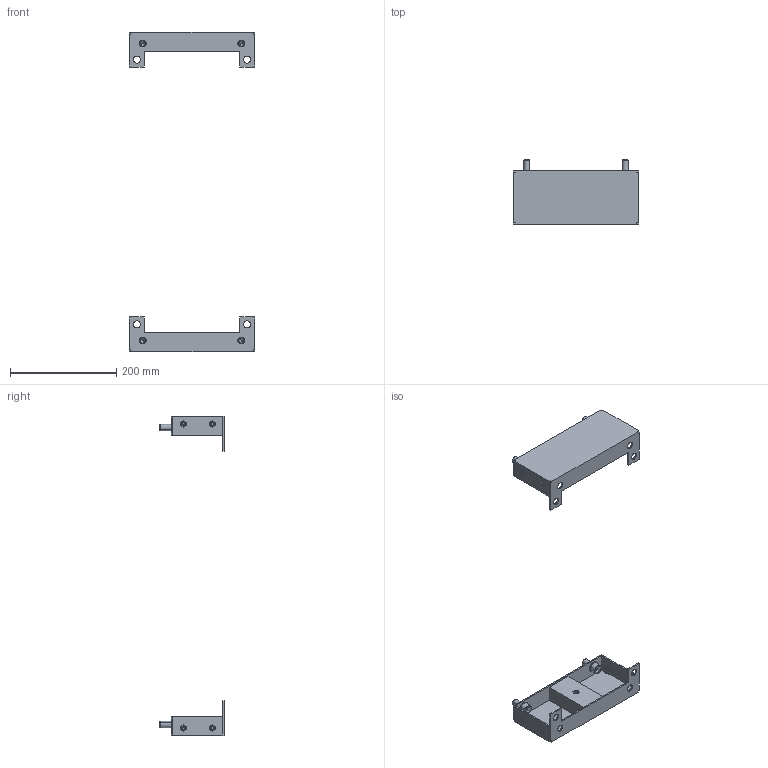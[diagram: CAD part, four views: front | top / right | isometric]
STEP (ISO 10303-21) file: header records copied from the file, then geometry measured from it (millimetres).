
FILE_DESCRIPTION (( 'STEP AP203' ), '1' );
FILE_NAME ('R6PLB30 H=600.STEP', '2025-05-16T11:39:22', ( '' ), ( '' ), 'SwSTEP 2.0', 'SolidWorks 2022', '' );
FILE_SCHEMA (( 'CONFIG_CONTROL_DESIGN' ));
Length unit declared in the file: millimetre
Products named in the file (8): RB.3309.00.01.0 simple_-01; M12x25 DIN 912 HX cl.8,8 Zinc_stright; M6 MGS-MPO-0635_thread; R6PLB30 H=600; RB.3309.00.02.0 simple; 12 DIN 6798 A Zinc; RB.3309.00.00.0 СБ simple_-01; M6 MGS-MPO-0635_straight
Assembly tree (17 placements, depth 3):
  R6PLB30 H=600
    RB.3309.00.00.0 СБ simple_-01  x2
      RB.3309.00.01.0 simple_-01
      M6 MGS-MPO-0635_thread
      RB.3309.00.02.0 simple
      M6 MGS-MPO-0635_straight
    12 DIN 6798 A Zinc  x4
    M12x25 DIN 912 HX cl.8,8 Zinc_stright  x4
Bounding box: 236.7 x 121.5 x 600 mm (x, y, z)
Volume: 302950.7 mm3; surface area: 250656.7 mm2
Topology: 22 solids, 22 shells, 1388 faces, 3688 edges, 2136 vertices
Faces by surface type: plane 548, cylinder 484, bspline 168, sphere 120, cone 36, torus 32
Entity records: 14938 total; most frequent: CARTESIAN_POINT 5753, ORIENTED_EDGE 1768, DIRECTION 1535, EDGE_CURVE 884, VERTEX_POINT 558, LINE 533, VECTOR 533, AXIS2_PLACEMENT_3D 501
